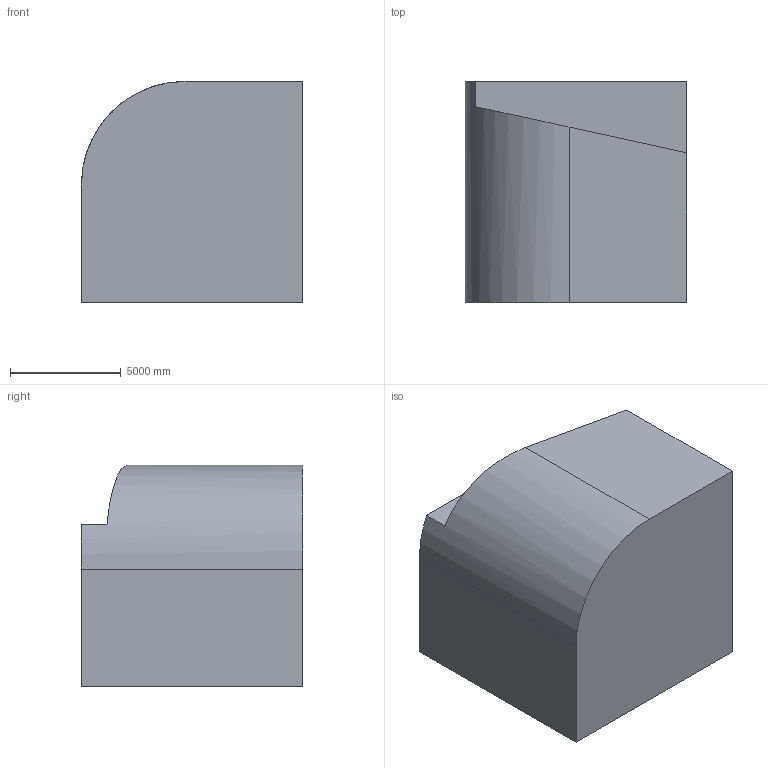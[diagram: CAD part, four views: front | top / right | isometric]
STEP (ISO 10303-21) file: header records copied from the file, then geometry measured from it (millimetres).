
FILE_DESCRIPTION (( 'STEP AP203' ), '1' );
FILE_NAME ('9.STEP', '2022-08-31T11:08:51', ( 'user' ), ( '' ), 'SwSTEP 2.0', 'SolidWorks 2021', '' );
FILE_SCHEMA (( 'CONFIG_CONTROL_DESIGN' ));
Length unit declared in the file: centimetre
Products named in the file (1): 9
Bounding box: 10000 x 10000 x 10000 mm (x, y, z)
Volume: 901263873194.9 mm3; surface area: 560947276.3 mm2
Topology: 1 solids, 1 shells, 9 faces, 21 edges, 14 vertices
Faces by surface type: plane 8, cylinder 1
Entity records: 334 total; most frequent: CARTESIAN_POINT 48, ORIENTED_EDGE 42, DIRECTION 42, EDGE_CURVE 21, VECTOR 18, LINE 18, VERTEX_POINT 14, AXIS2_PLACEMENT_3D 12
